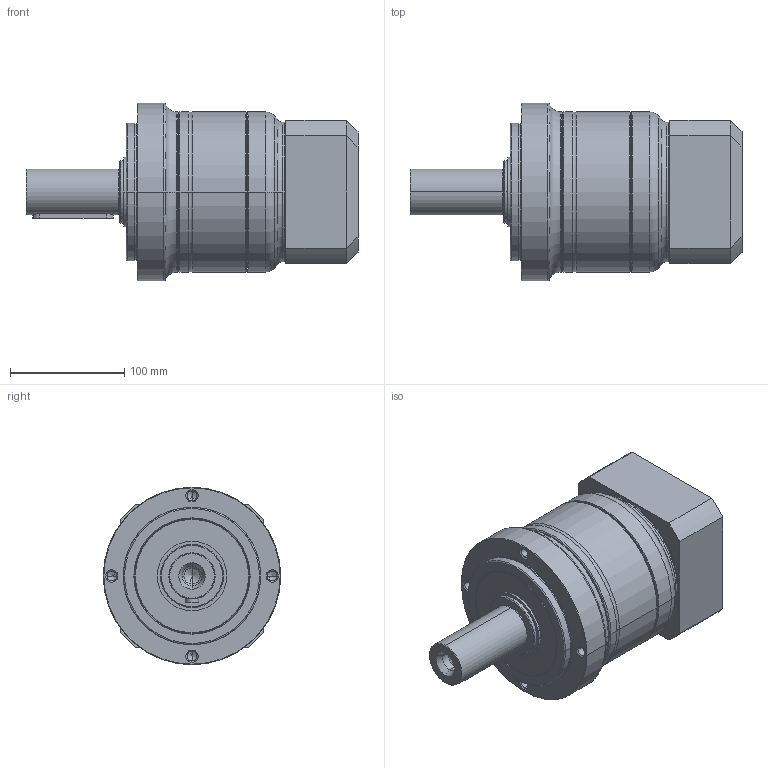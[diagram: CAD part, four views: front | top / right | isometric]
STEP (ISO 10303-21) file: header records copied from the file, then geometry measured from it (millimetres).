
FILE_DESCRIPTION((''),'2;1');
FILE_NAME('PE2-155_1ST_32-P0411700101_ASM','2017-05-31T',('d01943'),(''),'PRO/ENGINEER BY PARAMETRIC TECHNOLOGY CORPORATION, 2008410','PRO/ENGINEER BY PARAMETRIC TECHNOLOGY CORPORATION, 2008410','');
FILE_SCHEMA(('CONFIG_CONTROL_DESIGN'));
Length unit declared in the file: millimetre
Products named in the file (9): P1323510001; P0250500001; P1324500301; P0350501001; P0941503001; P0503700010; P0411700101; P1702600001; PE2-155_1ST_32-P0411700101_ASM
Assembly tree (8 placements, depth 2):
  PE2-155_1ST_32-P0411700101_ASM
    P1323510001
    P0250500001
    P1324500301
    P0350501001
    P0941503001
    P0503700010
    P0411700101
    P1702600001
Bounding box: 290 x 155 x 155 mm (x, y, z)
Volume: 2428583.6 mm3; surface area: 335483.3 mm2
Topology: 8 solids, 8 shells, 465 faces, 1022 edges, 586 vertices
Faces by surface type: cone 138, cylinder 136, torus 98, plane 77, bspline 16
Entity records: 17426 total; most frequent: CARTESIAN_POINT 6983, DIRECTION 2379, ORIENTED_EDGE 1980, AXIS2_PLACEMENT_3D 1022, EDGE_CURVE 990, VERTEX_POINT 586, CIRCLE 556, EDGE_LOOP 526
